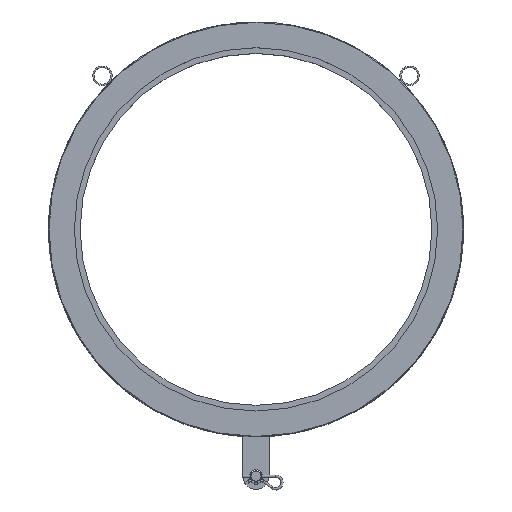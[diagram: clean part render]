
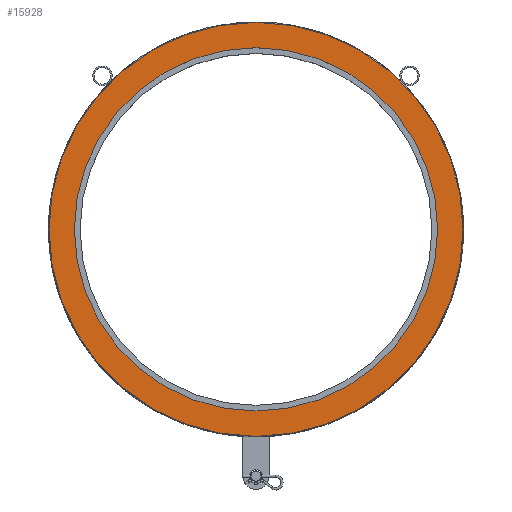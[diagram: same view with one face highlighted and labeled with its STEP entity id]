
A CAD part, top view. The second image highlights one B-rep face of the part: STEP entity #15928.
In plain terms, the highlighted planar face has unit normal (0, 0, 1).
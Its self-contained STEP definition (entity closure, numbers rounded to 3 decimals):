
#549=FACE_BOUND('',#3566,.T.);
#1747=PLANE('',#16768);
#2597=FACE_OUTER_BOUND('',#3565,.T.);
#3565=EDGE_LOOP('',(#14596));
#3566=EDGE_LOOP('',(#14597));
#6149=CIRCLE('',#16764,415.);
#6150=CIRCLE('',#16766,473.);
#7695=VERTEX_POINT('',#38071);
#7696=VERTEX_POINT('',#38075);
#10015=EDGE_CURVE('',#7695,#7695,#6149,.T.);
#10017=EDGE_CURVE('',#7696,#7696,#6150,.T.);
#14596=ORIENTED_EDGE('',*,*,#10017,.F.);
#14597=ORIENTED_EDGE('',*,*,#10015,.T.);
#15928=ADVANCED_FACE('',(#2597,#549),#1747,.T.);
#16764=AXIS2_PLACEMENT_3D('',#38072,#19425,#19426);
#16766=AXIS2_PLACEMENT_3D('',#38076,#19430,#19431);
#16768=AXIS2_PLACEMENT_3D('',#38079,#19435,#19436);
#19425=DIRECTION('center_axis',(0.,0.,
-1.));
#19426=DIRECTION('ref_axis',(-1.,0.,0.));
#19430=DIRECTION('center_axis',(0.,0.,
-1.));
#19431=DIRECTION('ref_axis',(-1.,0.,0.));
#19435=DIRECTION('center_axis',(0.,0.,
1.));
#19436=DIRECTION('ref_axis',(-1.,0.,0.));
#38071=CARTESIAN_POINT('',(415.,0.,140.));
#38072=CARTESIAN_POINT('Origin',(0.,0.,
140.));
#38075=CARTESIAN_POINT('',(473.,0.,140.));
#38076=CARTESIAN_POINT('Origin',(0.,0.,
140.));
#38079=CARTESIAN_POINT('Origin',(0.,0.,
140.));
